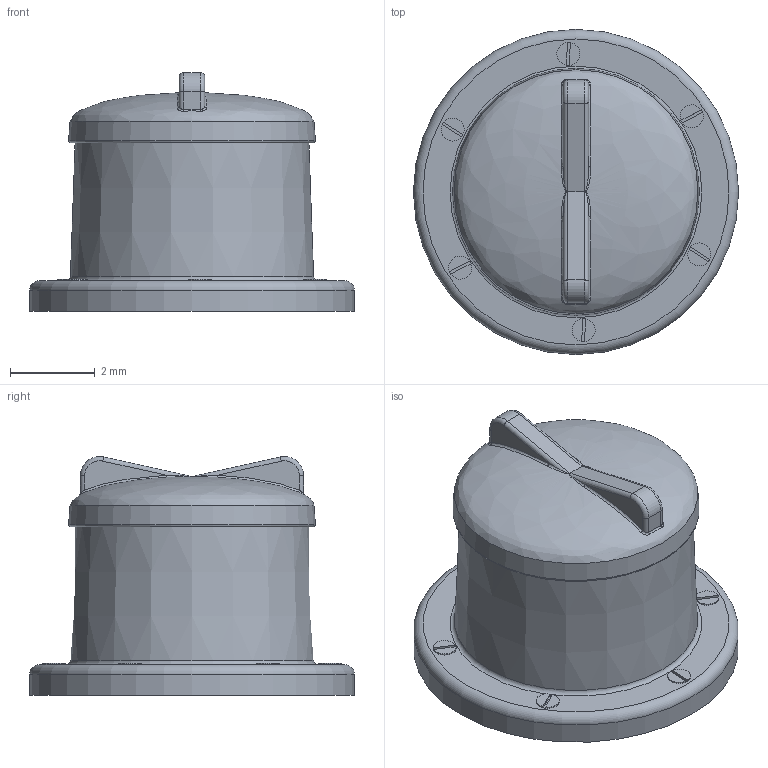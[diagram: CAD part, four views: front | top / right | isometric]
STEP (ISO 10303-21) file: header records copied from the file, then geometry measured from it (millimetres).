
FILE_DESCRIPTION(/* description */ ('','CAx-IF Rec.Pracs.---Representation and Presentation of Product Manufacturing Information (PMI)---4.0---2014-10-13'),/* implementation_level */ '2;1');
FILE_NAME(/* name */ '20elcoscrewvent.step',/* time_stamp */ '2025-03-07T13:30:30+11:00',/* author */ (''),/* organization */ (''),/* preprocessor_version */ 'ST-DEVELOPER v20',/* originating_system */ 'Autodesk Translation Framework v13.20.0.188',/* authorisation */ '');
FILE_SCHEMA (('AP242_MANAGED_MODEL_BASED_3D_ENGINEERING_MIM_LF { 1 0 10303 442 1 1 4 }'));
Length unit declared in the file: millimetre
Products named in the file (1): Elco Deck Fitting
Bounding box: 7.65 x 7.65 x 5.62 mm (x, y, z)
Volume: 82.7 mm3; surface area: 232.2 mm2
Topology: 1 solids, 1 shells, 104 faces, 229 edges, 135 vertices
Faces by surface type: plane 42, cylinder 36, bspline 15, torus 9, cone 2
Full cylindrical faces by diameter (mm): 4.252 x1, 7.65 x1
Entity records: 3348 total; most frequent: CARTESIAN_POINT 1067, DIRECTION 477, ORIENTED_EDGE 456, EDGE_CURVE 228, AXIS2_PLACEMENT_3D 190, VERTEX_POINT 135, EDGE_LOOP 113, FACE_OUTER_BOUND 104
